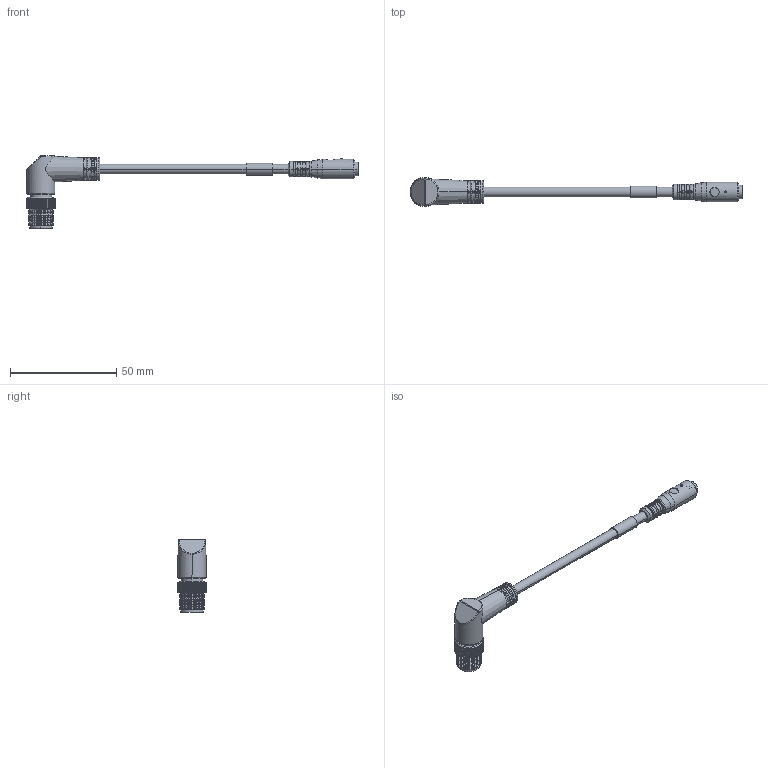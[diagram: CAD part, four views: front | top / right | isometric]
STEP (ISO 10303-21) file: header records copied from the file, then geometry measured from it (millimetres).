
FILE_DESCRIPTION((''),'2;1');
FILE_NAME('889P-S4UBDE-2_ASM','2015-05-11T',('20040676'),('Rockwell Automation'),'PRO/ENGINEER BY PARAMETRIC TECHNOLOGY CORPORATION, 2009140','PRO/ENGINEER BY PARAMETRIC TECHNOLOGY CORPORATION, 2009140','');
FILE_SCHEMA(('CONFIG_CONTROL_DESIGN'));
Length unit declared in the file: inch
Products named in the file (3): 889P-S4UB-2; 889D-E4-RIGHT-ANGLE-MALE; 889P-S4UBDE-2_ASM
Assembly tree (2 placements, depth 2):
  889P-S4UBDE-2_ASM
    889P-S4UB-2
    889D-E4-RIGHT-ANGLE-MALE
Bounding box: 156.55 x 14.01 x 34.29 mm (x, y, z)
Volume: 8930.5 mm3; surface area: 6304.8 mm2
Topology: 2 solids, 3 shells, 768 faces, 1999 edges, 1258 vertices
Faces by surface type: cylinder 346, plane 297, cone 100, torus 21, bspline 2, sphere 2
Entity records: 24832 total; most frequent: CARTESIAN_POINT 6085, ORIENTED_EDGE 3994, DIRECTION 3893, EDGE_CURVE 1997, AXIS2_PLACEMENT_3D 1489, VERTEX_POINT 1258, VECTOR 915, LINE 915
